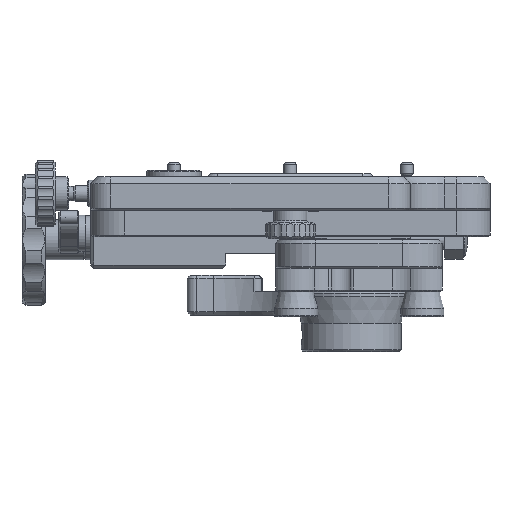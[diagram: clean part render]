
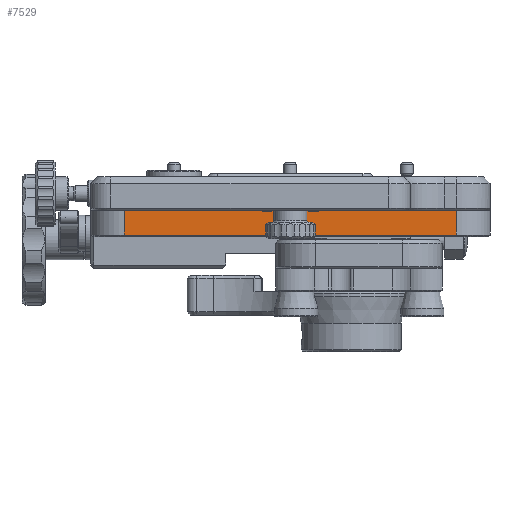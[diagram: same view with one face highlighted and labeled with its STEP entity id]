
A CAD part, front view. The second image highlights one B-rep face of the part: STEP entity #7529.
In plain terms, the highlighted planar face has unit normal (0, -1, 0) as drawn and (1, 0, 0) by its records, which use the part's own axes.
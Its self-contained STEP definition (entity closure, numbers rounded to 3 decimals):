
#1003=FACE_OUTER_BOUND('',#12216,.T.);
#3022=LINE('',#46481,#5312);
#3119=LINE('',#46870,#5409);
#3120=LINE('',#46872,#5410);
#3121=LINE('',#46874,#5411);
#5312=VECTOR('',#36426,1.);
#5409=VECTOR('',#36753,1.);
#5410=VECTOR('',#36754,1.);
#5411=VECTOR('',#36755,1.);
#7529=ADVANCED_FACE('',(#1003),#9521,.F.);
#9521=PLANE('',#32418);
#12216=EDGE_LOOP('',(#15567,#15568,#15569,#15570));
#15567=ORIENTED_EDGE('',*,*,#26824,.T.);
#15568=ORIENTED_EDGE('',*,*,#26825,.T.);
#15569=ORIENTED_EDGE('',*,*,#26826,.F.);
#15570=ORIENTED_EDGE('',*,*,#26639,.T.);
#23623=VERTEX_POINT('',#46480);
#23624=VERTEX_POINT('',#46482);
#23773=VERTEX_POINT('',#46871);
#23774=VERTEX_POINT('',#46873);
#26639=EDGE_CURVE('',#23624,#23623,#3022,.T.);
#26824=EDGE_CURVE('',#23623,#23773,#3119,.T.);
#26825=EDGE_CURVE('',#23773,#23774,#3120,.T.);
#26826=EDGE_CURVE('',#23624,#23774,#3121,.T.);
#32418=AXIS2_PLACEMENT_3D('',#46875,#36756,#36757);
#36426=DIRECTION('',(0.,-1.,0.));
#36753=DIRECTION('',(0.,0.,-1.));
#36754=DIRECTION('',(0.,1.,0.));
#36755=DIRECTION('',(0.,0.,-1.));
#36756=DIRECTION('',(-1.,0.,0.));
#36757=DIRECTION('',(0.,0.,1.));
#46480=CARTESIAN_POINT('',(139.,10.1,0.));
#46481=CARTESIAN_POINT('',(139.,120.,0.));
#46482=CARTESIAN_POINT('',(139.,109.9,0.));
#46870=CARTESIAN_POINT('',(139.,10.1,71.2));
#46871=CARTESIAN_POINT('',(139.,10.1,-7.5));
#46872=CARTESIAN_POINT('',(139.,109.9,-7.5));
#46873=CARTESIAN_POINT('',(139.,109.9,-7.5));
#46874=CARTESIAN_POINT('',(139.,109.9,71.2));
#46875=CARTESIAN_POINT('',(139.,120.,-8.));
